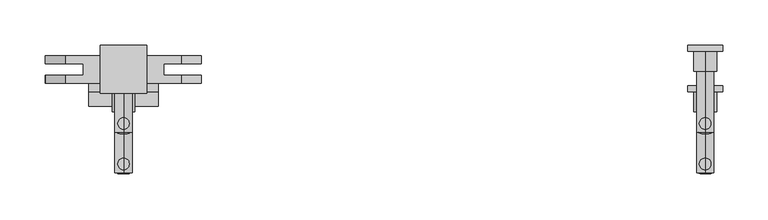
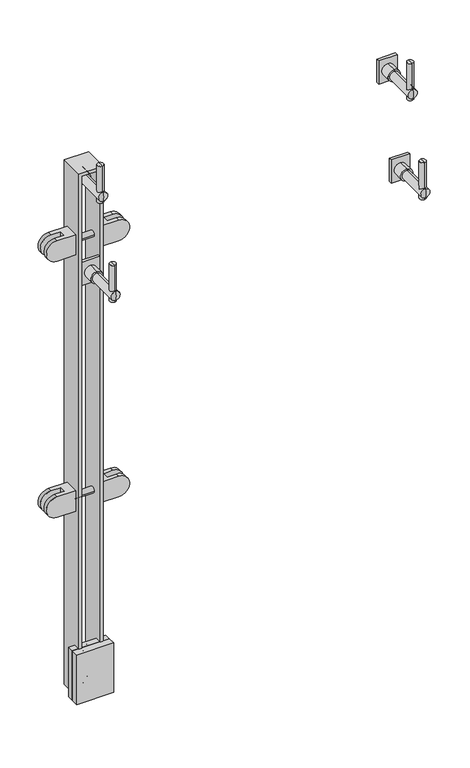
"""IFC4 building model written with IfcOpenShell, lengths in millimetres: proxy geometry, LIVERS_ICN - Glass Panel : LIVERS_ICN - Glass Panel."""

from ifc_helpers import new_model, si_unit, point, frame, origin, place, context, project, spatial, polyline, circle_curve, ellipse_curve, trimmed, outline, extrude, faceted_brep, source, transform, mapped, element, save
from ifc_brep_helpers import plane_surface, cylinder_surface, revolved_surface, advanced_brep


def building_element_proxy_eeb6ef50(model_context):
    return source(origin(), model_context, "Body", "SolidModel", [
        advanced_brep(
        [(147.2020677, 60.3249609, 991.2180522), (147.2020677, 60.3249609, 978.5180522), (147.2020677, 60.3249609, 965.8180522), (147.2020677, 38.0999609, 991.2180522), (147.2020677, 38.0999609, 965.8180522), (147.2020677, 38.0999609, 978.5180522)],
        [
            (0, 1),
            (1, 2),
            (2, 0, circle_curve(frame((147.2020677, 60.3249609, 978.5180522), z_axis=(0.0, 1.0, 0.0), x_axis=(0.0, 0.0, -1.0)), 12.7)),
            (0, 2, circle_curve(frame((147.2020677, 60.3249609, 978.5180522), z_axis=(0.0, 1.0, 0.0), x_axis=(0.0, 0.0, -1.0)), 12.7)),
            (3, 0),
            (2, 4),
            (4, 3, circle_curve(frame((147.2020677, 38.0999609, 978.5180522), z_axis=(0.0, 1.0, 0.0), x_axis=(0.0, 0.0, -1.0)), 12.7)),
            (3, 4, circle_curve(frame((147.2020677, 38.0999609, 978.5180522), z_axis=(0.0, 1.0, 0.0), x_axis=(0.0, 0.0, -1.0)), 12.7)),
            (5, 3),
            (4, 5),
        ],
        [
            plane_surface(frame((147.2020677, 60.3249609, 978.5180522), z_axis=(0.0, 1.0, 0.0), x_axis=(0.0, 0.0, -1.0))),
            cylinder_surface(frame((147.2020677, 69.3828283, 978.5180522), z_axis=(0.0, -1.0, 0.0), x_axis=(0.0, 0.0, -1.0)), 12.7),
            plane_surface(frame((147.2020677, 38.0999609, 978.5180522), z_axis=(0.0, -1.0, 0.0), x_axis=(0.0, 0.0, -1.0))),
        ],
        [
            (0, [[1, 2, 3]]),
            (0, [[-2, -1, 4]]),
            (1, [[5, -3, 6, 7]]),
            (1, [[-6, -4, -5, 8]]),
            (2, [[9, -7, 10]]),
            (2, [[-10, -8, -9]]),
        ],
    ),
        advanced_brep(
        [(147.2020677, -25.4004131, 1043.1838845), (147.2020677, -19.0504161, 1043.1838845), (147.2020677, -12.7004191, 1043.1838845), (147.2020677, -25.4004131, 962.7878163), (147.2020677, -12.7004191, 962.7878163), (147.2020677, -19.0504161, 962.7878163)],
        [
            (0, 1),
            (1, 2),
            (2, 0, circle_curve(frame((147.2020677, -19.0504161, 1043.1838845), z_axis=(0.0, 0.0, 1.0), x_axis=(0.0, 1.0, 0.0)), 6.349997)),
            (0, 2, circle_curve(frame((147.2020677, -19.0504161, 1043.1838845), z_axis=(0.0, 0.0, 1.0), x_axis=(0.0, 1.0, 0.0)), 6.349997)),
            (3, 0),
            (2, 4),
            (4, 3, circle_curve(frame((147.2020677, -19.0504161, 962.7878163), z_axis=(0.0, 0.0, 1.0), x_axis=(0.0, 1.0, 0.0)), 6.349997)),
            (3, 4, circle_curve(frame((147.2020677, -19.0504161, 962.7878163), z_axis=(0.0, 0.0, 1.0), x_axis=(0.0, 1.0, 0.0)), 6.349997)),
            (5, 3),
            (4, 5),
        ],
        [
            plane_surface(frame((147.2020677, -19.0504161, 1043.1838845), z_axis=(0.0, 0.0, 1.0), x_axis=(0.0, 1.0, 0.0))),
            cylinder_surface(frame((147.2020677, -19.0504161, 1057.0348914), z_axis=(0.0, 0.0, -1.0), x_axis=(0.0, 1.0, 0.0)), 6.349997),
            plane_surface(frame((147.2020677, -19.0504161, 962.7878163), z_axis=(0.0, 0.0, -1.0), x_axis=(0.0, 1.0, 0.0))),
        ],
        [
            (0, [[1, 2, 3]]),
            (0, [[-2, -1, 4]]),
            (1, [[5, -3, 6, 7]]),
            (1, [[-6, -4, -5, 8]]),
            (2, [[9, -7, 10]]),
            (2, [[-10, -8, -9]]),
        ],
    ),
        advanced_brep(
        [(147.2020677, -30.1375464, 978.5180522), (147.2020677, -28.5500464, 988.0430522), (147.2020677, -28.5500464, 968.9930522), (147.2020677, 38.0999609, 988.0430522), (147.2020677, 38.0999609, 978.5180522), (147.2020677, 38.0999609, 968.9930522)],
        [
            (0, 1, circle_curve(frame((147.2020677, -0.7687964, 978.5180522), z_axis=(-1.0, 0.0, 0.0), x_axis=(0.0, 1.0, 0.0)), 29.36875)),
            (1, 2, circle_curve(frame((147.2020677, -28.5500464, 978.5180522), z_axis=(0.0, -1.0, 0.0), x_axis=(0.0, 0.0, -1.0)), 9.525)),
            (2, 0, circle_curve(frame((147.2020677, -0.7687964, 978.5180522), z_axis=(-1.0, 0.0, 0.0), x_axis=(0.0, 1.0, 0.0)), 29.36875)),
            (2, 1, circle_curve(frame((147.2020677, -28.5500464, 978.5180522), z_axis=(0.0, -1.0, 0.0), x_axis=(0.0, 0.0, -1.0)), 9.525)),
            (3, 4),
            (4, 5),
            (5, 3, circle_curve(frame((147.2020677, 38.0999609, 978.5180522), z_axis=(0.0, 1.0, 0.0), x_axis=(0.0, 0.0, -1.0)), 9.525)),
            (3, 5, circle_curve(frame((147.2020677, 38.0999609, 978.5180522), z_axis=(0.0, 1.0, 0.0), x_axis=(0.0, 0.0, -1.0)), 9.525)),
            (1, 3),
            (5, 2),
        ],
        [
            revolved_surface(trimmed(ellipse_curve(frame((147.2020677, -0.7687964, 978.5180522), z_axis=(-1.0, 0.0, 0.0), x_axis=(0.0, 1.0, 0.0)), 29.36875, 29.36875), [point((147.2020677, -28.5500464, 968.9930522))], [point((147.2020677, -30.1375464, 978.5180522))], True, "CARTESIAN"), (147.2020677, 30.3031204, 978.5180522), (0.0, -1.0, 0.0)),
            plane_surface(frame((147.2020677, 38.0999609, 978.5180522), z_axis=(0.0, 1.0, 0.0), x_axis=(0.0, 0.0, -1.0))),
            cylinder_surface(frame((147.2020677, 30.3031204, 978.5180522), z_axis=(0.0, -1.0, 0.0), x_axis=(0.0, 0.0, -1.0)), 9.525),
        ],
        [
            (0, [[1, 2, 3]]),
            (0, [[-3, 4, -1]]),
            (1, [[5, 6, 7]]),
            (1, [[-6, -5, 8]]),
            (2, [[9, -7, 10, -2]]),
            (2, [[-10, -8, -9, -4]]),
        ],
    ),
        extrude(outline(polyline([(166.2520677, 66.6749609), (166.2520677, 60.3249609), (128.1520677, 60.3249609), (128.1520677, 66.6749609), (166.2520677, 66.6749609)])), frame((0.0, 0.0, 953.1180522), z_axis=(0.0, 0.0, 1.0), x_axis=(1.0, 0.0, 0.0)), (0.0, 0.0, 1.0), 50.8),
        advanced_brep(
        [(786.9360146, 60.3249609, 991.2180522), (786.9360146, 60.3249609, 978.5180522), (786.9360146, 60.3249609, 965.8180522), (786.9360146, 38.0999609, 991.2180522), (786.9360146, 38.0999609, 965.8180522), (786.9360146, 38.0999609, 978.5180522)],
        [
            (0, 1),
            (1, 2),
            (2, 0, circle_curve(frame((786.9360146, 60.3249609, 978.5180522), z_axis=(0.0, 1.0, 0.0), x_axis=(0.0, 0.0, -1.0)), 12.7)),
            (0, 2, circle_curve(frame((786.9360146, 60.3249609, 978.5180522), z_axis=(0.0, 1.0, 0.0), x_axis=(0.0, 0.0, -1.0)), 12.7)),
            (3, 0),
            (2, 4),
            (4, 3, circle_curve(frame((786.9360146, 38.0999609, 978.5180522), z_axis=(0.0, 1.0, 0.0), x_axis=(0.0, 0.0, -1.0)), 12.7)),
            (3, 4, circle_curve(frame((786.9360146, 38.0999609, 978.5180522), z_axis=(0.0, 1.0, 0.0), x_axis=(0.0, 0.0, -1.0)), 12.7)),
            (5, 3),
            (4, 5),
        ],
        [
            plane_surface(frame((786.9360146, 60.3249609, 978.5180522), z_axis=(0.0, 1.0, 0.0), x_axis=(0.0, 0.0, -1.0))),
            cylinder_surface(frame((786.9360146, 69.3828283, 978.5180522), z_axis=(0.0, -1.0, 0.0), x_axis=(0.0, 0.0, -1.0)), 12.7),
            plane_surface(frame((786.9360146, 38.0999609, 978.5180522), z_axis=(0.0, -1.0, 0.0), x_axis=(0.0, 0.0, -1.0))),
        ],
        [
            (0, [[1, 2, 3]]),
            (0, [[-2, -1, 4]]),
            (1, [[5, -3, 6, 7]]),
            (1, [[-6, -4, -5, 8]]),
            (2, [[9, -7, 10]]),
            (2, [[-10, -8, -9]]),
        ],
    ),
        advanced_brep(
        [(786.9360146, -25.4004131, 1043.1838845), (786.9360146, -19.0504161, 1043.1838845), (786.9360146, -12.7004191, 1043.1838845), (786.9360146, -25.4004131, 962.7878163), (786.9360146, -12.7004191, 962.7878163), (786.9360146, -19.0504161, 962.7878163)],
        [
            (0, 1),
            (1, 2),
            (2, 0, circle_curve(frame((786.9360146, -19.0504161, 1043.1838845), z_axis=(0.0, 0.0, 1.0), x_axis=(0.0, 1.0, 0.0)), 6.349997)),
            (0, 2, circle_curve(frame((786.9360146, -19.0504161, 1043.1838845), z_axis=(0.0, 0.0, 1.0), x_axis=(0.0, 1.0, 0.0)), 6.349997)),
            (3, 0),
            (2, 4),
            (4, 3, circle_curve(frame((786.9360146, -19.0504161, 962.7878163), z_axis=(0.0, 0.0, 1.0), x_axis=(0.0, 1.0, 0.0)), 6.349997)),
            (3, 4, circle_curve(frame((786.9360146, -19.0504161, 962.7878163), z_axis=(0.0, 0.0, 1.0), x_axis=(0.0, 1.0, 0.0)), 6.349997)),
            (5, 3),
            (4, 5),
        ],
        [
            plane_surface(frame((786.9360146, -19.0504161, 1043.1838845), z_axis=(0.0, 0.0, 1.0), x_axis=(0.0, 1.0, 0.0))),
            cylinder_surface(frame((786.9360146, -19.0504161, 1057.0348914), z_axis=(0.0, 0.0, -1.0), x_axis=(0.0, 1.0, 0.0)), 6.349997),
            plane_surface(frame((786.9360146, -19.0504161, 962.7878163), z_axis=(0.0, 0.0, -1.0), x_axis=(0.0, 1.0, 0.0))),
        ],
        [
            (0, [[1, 2, 3]]),
            (0, [[-2, -1, 4]]),
            (1, [[5, -3, 6, 7]]),
            (1, [[-6, -4, -5, 8]]),
            (2, [[9, -7, 10]]),
            (2, [[-10, -8, -9]]),
        ],
    ),
        advanced_brep(
        [(786.9360146, -30.1375464, 978.5180522), (786.9360146, -28.5500464, 988.0430522), (786.9360146, -28.5500464, 968.9930522), (786.9360146, 38.0999609, 988.0430522), (786.9360146, 38.0999609, 978.5180522), (786.9360146, 38.0999609, 968.9930522)],
        [
            (0, 1, circle_curve(frame((786.9360146, -0.7687964, 978.5180522), z_axis=(-1.0, 0.0, 0.0), x_axis=(0.0, 1.0, 0.0)), 29.36875)),
            (1, 2, circle_curve(frame((786.9360146, -28.5500464, 978.5180522), z_axis=(0.0, -1.0, 0.0), x_axis=(0.0, 0.0, -1.0)), 9.525)),
            (2, 0, circle_curve(frame((786.9360146, -0.7687964, 978.5180522), z_axis=(-1.0, 0.0, 0.0), x_axis=(0.0, 1.0, 0.0)), 29.36875)),
            (2, 1, circle_curve(frame((786.9360146, -28.5500464, 978.5180522), z_axis=(0.0, -1.0, 0.0), x_axis=(0.0, 0.0, -1.0)), 9.525)),
            (3, 4),
            (4, 5),
            (5, 3, circle_curve(frame((786.9360146, 38.0999609, 978.5180522), z_axis=(0.0, 1.0, 0.0), x_axis=(0.0, 0.0, -1.0)), 9.525)),
            (3, 5, circle_curve(frame((786.9360146, 38.0999609, 978.5180522), z_axis=(0.0, 1.0, 0.0), x_axis=(0.0, 0.0, -1.0)), 9.525)),
            (1, 3),
            (5, 2),
        ],
        [
            revolved_surface(trimmed(ellipse_curve(frame((786.9360146, -0.7687964, 978.5180522), z_axis=(-1.0, 0.0, 0.0), x_axis=(0.0, 1.0, 0.0)), 29.36875, 29.36875), [point((786.9360146, -28.5500464, 968.9930522))], [point((786.9360146, -30.1375464, 978.5180522))], True, "CARTESIAN"), (786.9360146, 30.3031204, 978.5180522), (0.0, -1.0, 0.0)),
            plane_surface(frame((786.9360146, 38.0999609, 978.5180522), z_axis=(0.0, 1.0, 0.0), x_axis=(0.0, 0.0, -1.0))),
            cylinder_surface(frame((786.9360146, 30.3031204, 978.5180522), z_axis=(0.0, -1.0, 0.0), x_axis=(0.0, 0.0, -1.0)), 9.525),
        ],
        [
            (0, [[1, 2, 3]]),
            (0, [[-3, 4, -1]]),
            (1, [[5, 6, 7]]),
            (1, [[-6, -5, 8]]),
            (2, [[9, -7, 10, -2]]),
            (2, [[-10, -8, -9, -4]]),
        ],
    ),
        extrude(outline(polyline([(805.9860146, 66.6749609), (805.9860146, 60.3249609), (767.8860146, 60.3249609), (767.8860146, 66.6749609), (805.9860146, 66.6749609)])), frame((0.0, 0.0, 953.1180522), z_axis=(0.0, 0.0, 1.0), x_axis=(1.0, 0.0, 0.0)), (0.0, 0.0, 1.0), 50.8),
        advanced_brep(
        [(147.2020677, 15.875, 802.0090959), (147.2020677, 15.875, 789.3090959), (147.2020677, 15.875, 776.6090959), (147.2020677, -6.35, 802.0090959), (147.2020677, -6.35, 776.6090959), (147.2020677, -6.35, 789.3090959)],
        [
            (0, 1),
            (1, 2),
            (2, 0, circle_curve(frame((147.2020677, 15.875, 789.3090959), z_axis=(0.0, 1.0, 0.0), x_axis=(0.0, 0.0, -1.0)), 12.7)),
            (0, 2, circle_curve(frame((147.2020677, 15.875, 789.3090959), z_axis=(0.0, 1.0, 0.0), x_axis=(0.0, 0.0, -1.0)), 12.7)),
            (3, 0),
            (2, 4),
            (4, 3, circle_curve(frame((147.2020677, -6.35, 789.3090959), z_axis=(0.0, 1.0, 0.0), x_axis=(0.0, 0.0, -1.0)), 12.7)),
            (3, 4, circle_curve(frame((147.2020677, -6.35, 789.3090959), z_axis=(0.0, 1.0, 0.0), x_axis=(0.0, 0.0, -1.0)), 12.7)),
            (5, 3),
            (4, 5),
        ],
        [
            plane_surface(frame((147.2020677, 15.875, 789.3090959), z_axis=(0.0, 1.0, 0.0), x_axis=(0.0, 0.0, -1.0))),
            cylinder_surface(frame((147.2020677, 24.9328674, 789.3090959), z_axis=(0.0, -1.0, 0.0), x_axis=(0.0, 0.0, -1.0)), 12.7),
            plane_surface(frame((147.2020677, -6.35, 789.3090959), z_axis=(0.0, -1.0, 0.0), x_axis=(0.0, 0.0, -1.0))),
        ],
        [
            (0, [[1, 2, 3]]),
            (0, [[-2, -1, 4]]),
            (1, [[5, -3, 6, 7]]),
            (1, [[-6, -4, -5, 8]]),
            (2, [[9, -7, 10]]),
            (2, [[-10, -8, -9]]),
        ],
    ),
        advanced_brep(
        [(147.2020677, -69.850374, 853.9749282), (147.2020677, -63.500377, 853.9749282), (147.2020677, -57.15038, 853.9749282), (147.2020677, -69.850374, 773.57886), (147.2020677, -57.15038, 773.57886), (147.2020677, -63.500377, 773.57886)],
        [
            (0, 1),
            (1, 2),
            (2, 0, circle_curve(frame((147.2020677, -63.500377, 853.9749282), z_axis=(0.0, 0.0, 1.0), x_axis=(0.0, 1.0, 0.0)), 6.349997)),
            (0, 2, circle_curve(frame((147.2020677, -63.500377, 853.9749282), z_axis=(0.0, 0.0, 1.0), x_axis=(0.0, 1.0, 0.0)), 6.349997)),
            (3, 0),
            (2, 4),
            (4, 3, circle_curve(frame((147.2020677, -63.500377, 773.57886), z_axis=(0.0, 0.0, 1.0), x_axis=(0.0, 1.0, 0.0)), 6.349997)),
            (3, 4, circle_curve(frame((147.2020677, -63.500377, 773.57886), z_axis=(0.0, 0.0, 1.0), x_axis=(0.0, 1.0, 0.0)), 6.349997)),
            (5, 3),
            (4, 5),
        ],
        [
            plane_surface(frame((147.2020677, -63.500377, 853.9749282), z_axis=(0.0, 0.0, 1.0), x_axis=(0.0, 1.0, 0.0))),
            cylinder_surface(frame((147.2020677, -63.500377, 867.8259351), z_axis=(0.0, 0.0, -1.0), x_axis=(0.0, 1.0, 0.0)), 6.349997),
            plane_surface(frame((147.2020677, -63.500377, 773.57886), z_axis=(0.0, 0.0, -1.0), x_axis=(0.0, 1.0, 0.0))),
        ],
        [
            (0, [[1, 2, 3]]),
            (0, [[-2, -1, 4]]),
            (1, [[5, -3, 6, 7]]),
            (1, [[-6, -4, -5, 8]]),
            (2, [[9, -7, 10]]),
            (2, [[-10, -8, -9]]),
        ],
    ),
        advanced_brep(
        [(147.2020677, -74.5875073, 789.3090959), (147.2020677, -73.0000073, 798.8340959), (147.2020677, -73.0000073, 779.7840959), (147.2020677, -6.35, 798.8340959), (147.2020677, -6.35, 789.3090959), (147.2020677, -6.35, 779.7840959)],
        [
            (0, 1, circle_curve(frame((147.2020677, -45.2187573, 789.3090959), z_axis=(-1.0, 0.0, 0.0), x_axis=(0.0, 1.0, 0.0)), 29.36875)),
            (1, 2, circle_curve(frame((147.2020677, -73.0000073, 789.3090959), z_axis=(0.0, -1.0, 0.0), x_axis=(0.0, 0.0, -1.0)), 9.525)),
            (2, 0, circle_curve(frame((147.2020677, -45.2187573, 789.3090959), z_axis=(-1.0, 0.0, 0.0), x_axis=(0.0, 1.0, 0.0)), 29.36875)),
            (2, 1, circle_curve(frame((147.2020677, -73.0000073, 789.3090959), z_axis=(0.0, -1.0, 0.0), x_axis=(0.0, 0.0, -1.0)), 9.525)),
            (3, 4),
            (4, 5),
            (5, 3, circle_curve(frame((147.2020677, -6.35, 789.3090959), z_axis=(0.0, 1.0, 0.0), x_axis=(0.0, 0.0, -1.0)), 9.525)),
            (3, 5, circle_curve(frame((147.2020677, -6.35, 789.3090959), z_axis=(0.0, 1.0, 0.0), x_axis=(0.0, 0.0, -1.0)), 9.525)),
            (1, 3),
            (5, 2),
        ],
        [
            revolved_surface(trimmed(ellipse_curve(frame((147.2020677, -45.2187573, 789.3090959), z_axis=(-1.0, 0.0, 0.0), x_axis=(0.0, 1.0, 0.0)), 29.36875, 29.36875), [point((147.2020677, -73.0000073, 779.7840959))], [point((147.2020677, -74.5875073, 789.3090959))], True, "CARTESIAN"), (147.2020677, -14.1468405, 789.3090959), (0.0, -1.0, 0.0)),
            plane_surface(frame((147.2020677, -6.35, 789.3090959), z_axis=(0.0, 1.0, 0.0), x_axis=(0.0, 0.0, -1.0))),
            cylinder_surface(frame((147.2020677, -14.1468405, 789.3090959), z_axis=(0.0, -1.0, 0.0), x_axis=(0.0, 0.0, -1.0)), 9.525),
        ],
        [
            (0, [[1, 2, 3]]),
            (0, [[-3, 4, -1]]),
            (1, [[5, 6, 7]]),
            (1, [[-6, -5, 8]]),
            (2, [[9, -7, 10, -2]]),
            (2, [[-10, -8, -9, -4]]),
        ],
    ),
        extrude(outline(polyline([(166.2520677, 22.225), (166.2520677, 15.875), (128.1520677, 15.875), (128.1520677, 22.225), (166.2520677, 22.225)])), frame((0.0, 0.0, 763.9090959), z_axis=(0.0, 0.0, 1.0), x_axis=(1.0, 0.0, 0.0)), (0.0, 0.0, 1.0), 50.8),
        advanced_brep(
        [(786.9360146, 15.875, 802.0090959), (786.9360146, 15.875, 789.3090959), (786.9360146, 15.875, 776.6090959), (786.9360146, -6.35, 802.0090959), (786.9360146, -6.35, 776.6090959), (786.9360146, -6.35, 789.3090959)],
        [
            (0, 1),
            (1, 2),
            (2, 0, circle_curve(frame((786.9360146, 15.875, 789.3090959), z_axis=(0.0, 1.0, 0.0), x_axis=(0.0, 0.0, -1.0)), 12.7)),
            (0, 2, circle_curve(frame((786.9360146, 15.875, 789.3090959), z_axis=(0.0, 1.0, 0.0), x_axis=(0.0, 0.0, -1.0)), 12.7)),
            (3, 0),
            (2, 4),
            (4, 3, circle_curve(frame((786.9360146, -6.35, 789.3090959), z_axis=(0.0, 1.0, 0.0), x_axis=(0.0, 0.0, -1.0)), 12.7)),
            (3, 4, circle_curve(frame((786.9360146, -6.35, 789.3090959), z_axis=(0.0, 1.0, 0.0), x_axis=(0.0, 0.0, -1.0)), 12.7)),
            (5, 3),
            (4, 5),
        ],
        [
            plane_surface(frame((786.9360146, 15.875, 789.3090959), z_axis=(0.0, 1.0, 0.0), x_axis=(0.0, 0.0, -1.0))),
            cylinder_surface(frame((786.9360146, 24.9328674, 789.3090959), z_axis=(0.0, -1.0, 0.0), x_axis=(0.0, 0.0, -1.0)), 12.7),
            plane_surface(frame((786.9360146, -6.35, 789.3090959), z_axis=(0.0, -1.0, 0.0), x_axis=(0.0, 0.0, -1.0))),
        ],
        [
            (0, [[1, 2, 3]]),
            (0, [[-2, -1, 4]]),
            (1, [[5, -3, 6, 7]]),
            (1, [[-6, -4, -5, 8]]),
            (2, [[9, -7, 10]]),
            (2, [[-10, -8, -9]]),
        ],
    ),
        advanced_brep(
        [(786.9360146, -69.850374, 853.9749282), (786.9360146, -63.500377, 853.9749282), (786.9360146, -57.15038, 853.9749282), (786.9360146, -69.850374, 773.57886), (786.9360146, -57.15038, 773.57886), (786.9360146, -63.500377, 773.57886)],
        [
            (0, 1),
            (1, 2),
            (2, 0, circle_curve(frame((786.9360146, -63.500377, 853.9749282), z_axis=(0.0, 0.0, 1.0), x_axis=(0.0, 1.0, 0.0)), 6.349997)),
            (0, 2, circle_curve(frame((786.9360146, -63.500377, 853.9749282), z_axis=(0.0, 0.0, 1.0), x_axis=(0.0, 1.0, 0.0)), 6.349997)),
            (3, 0),
            (2, 4),
            (4, 3, circle_curve(frame((786.9360146, -63.500377, 773.57886), z_axis=(0.0, 0.0, 1.0), x_axis=(0.0, 1.0, 0.0)), 6.349997)),
            (3, 4, circle_curve(frame((786.9360146, -63.500377, 773.57886), z_axis=(0.0, 0.0, 1.0), x_axis=(0.0, 1.0, 0.0)), 6.349997)),
            (5, 3),
            (4, 5),
        ],
        [
            plane_surface(frame((786.9360146, -63.500377, 853.9749282), z_axis=(0.0, 0.0, 1.0), x_axis=(0.0, 1.0, 0.0))),
            cylinder_surface(frame((786.9360146, -63.500377, 867.8259351), z_axis=(0.0, 0.0, -1.0), x_axis=(0.0, 1.0, 0.0)), 6.349997),
            plane_surface(frame((786.9360146, -63.500377, 773.57886), z_axis=(0.0, 0.0, -1.0), x_axis=(0.0, 1.0, 0.0))),
        ],
        [
            (0, [[1, 2, 3]]),
            (0, [[-2, -1, 4]]),
            (1, [[5, -3, 6, 7]]),
            (1, [[-6, -4, -5, 8]]),
            (2, [[9, -7, 10]]),
            (2, [[-10, -8, -9]]),
        ],
    ),
        advanced_brep(
        [(786.9360146, -74.5875073, 789.3090959), (786.9360146, -73.0000073, 798.8340959), (786.9360146, -73.0000073, 779.7840959), (786.9360146, -6.35, 798.8340959), (786.9360146, -6.35, 789.3090959), (786.9360146, -6.35, 779.7840959)],
        [
            (0, 1, circle_curve(frame((786.9360146, -45.2187573, 789.3090959), z_axis=(-1.0, 0.0, 0.0), x_axis=(0.0, 1.0, 0.0)), 29.36875)),
            (1, 2, circle_curve(frame((786.9360146, -73.0000073, 789.3090959), z_axis=(0.0, -1.0, 0.0), x_axis=(0.0, 0.0, -1.0)), 9.525)),
            (2, 0, circle_curve(frame((786.9360146, -45.2187573, 789.3090959), z_axis=(-1.0, 0.0, 0.0), x_axis=(0.0, 1.0, 0.0)), 29.36875)),
            (2, 1, circle_curve(frame((786.9360146, -73.0000073, 789.3090959), z_axis=(0.0, -1.0, 0.0), x_axis=(0.0, 0.0, -1.0)), 9.525)),
            (3, 4),
            (4, 5),
            (5, 3, circle_curve(frame((786.9360146, -6.35, 789.3090959), z_axis=(0.0, 1.0, 0.0), x_axis=(0.0, 0.0, -1.0)), 9.525)),
            (3, 5, circle_curve(frame((786.9360146, -6.35, 789.3090959), z_axis=(0.0, 1.0, 0.0), x_axis=(0.0, 0.0, -1.0)), 9.525)),
            (1, 3),
            (5, 2),
        ],
        [
            revolved_surface(trimmed(ellipse_curve(frame((786.9360146, -45.2187573, 789.3090959), z_axis=(-1.0, 0.0, 0.0), x_axis=(0.0, 1.0, 0.0)), 29.36875, 29.36875), [point((786.9360146, -73.0000073, 779.7840959))], [point((786.9360146, -74.5875073, 789.3090959))], True, "CARTESIAN"), (786.9360146, -14.1468405, 789.3090959), (0.0, -1.0, 0.0)),
            plane_surface(frame((786.9360146, -6.35, 789.3090959), z_axis=(0.0, 1.0, 0.0), x_axis=(0.0, 0.0, -1.0))),
            cylinder_surface(frame((786.9360146, -14.1468405, 789.3090959), z_axis=(0.0, -1.0, 0.0), x_axis=(0.0, 0.0, -1.0)), 9.525),
        ],
        [
            (0, [[1, 2, 3]]),
            (0, [[-3, 4, -1]]),
            (1, [[5, 6, 7]]),
            (1, [[-6, -5, 8]]),
            (2, [[9, -7, 10, -2]]),
            (2, [[-10, -8, -9, -4]]),
        ],
    ),
        extrude(outline(polyline([(805.9860146, 22.225), (805.9860146, 15.875), (767.8860146, 15.875), (767.8860146, 22.225), (805.9860146, 22.225)])), frame((0.0, 0.0, 763.9090959), z_axis=(0.0, 0.0, 1.0), x_axis=(1.0, 0.0, 0.0)), (0.0, 0.0, 1.0), 50.8),
        advanced_brep(
        [(121.8020677, 55.5624457, 313.5369168), (121.8020677, 25.3999457, 313.5369168), (121.8020677, 25.3999457, 269.0869168), (121.8020677, 55.5624457, 269.0869168), (83.6009737, 55.5624457, 269.0869168), (83.6009737, 55.5624457, 313.5369168), (83.6009737, 25.3999457, 269.0869168), (83.6009737, 34.1311957, 269.0869168), (102.9301485, 34.1311957, 269.0869168), (102.9301485, 46.8311957, 269.0869168), (83.6009737, 46.8311957, 269.0869168), (83.6009737, 25.3999457, 313.5369168), (83.6009737, 46.8311957, 313.5369168), (102.9301485, 46.8311957, 313.5369168), (102.9301485, 34.1311957, 313.5369168), (83.6009737, 34.1311957, 313.5369168)],
        [
            (0, 1),
            (1, 2),
            (2, 3),
            (3, 0),
            (3, 4),
            (4, 5, circle_curve(frame((83.6009737, 55.5624457, 291.3119168), z_axis=(0.0, 1.0, 0.0), x_axis=(0.0, 0.0, -1.0)), 22.225)),
            (5, 0),
            (2, 6),
            (6, 7),
            (7, 8),
            (8, 9),
            (9, 10),
            (10, 4),
            (1, 11),
            (11, 6, circle_curve(frame((83.6009737, 25.3999457, 291.3119168), z_axis=(0.0, -1.0, 0.0), x_axis=(0.0, 0.0, -1.0)), 22.225)),
            (5, 12),
            (12, 13),
            (13, 14),
            (14, 15),
            (15, 11),
            (13, 9),
            (8, 14),
            (12, 10, circle_curve(frame((83.6009737, 46.8311957, 291.3119168), z_axis=(0.0, -1.0, 0.0), x_axis=(0.0, 0.0, -1.0)), 22.225)),
            (7, 15, circle_curve(frame((83.6009737, 34.1311957, 291.3119168), z_axis=(0.0, 1.0, 0.0), x_axis=(0.0, 0.0, -1.0)), 22.225)),
        ],
        [
            plane_surface(frame((121.8020677, 55.5624457, 269.0869168), z_axis=(1.0, 0.0, 0.0), x_axis=(0.0, 0.0, 1.0))),
            plane_surface(frame((61.2989869, 55.5624457, 313.5369168), z_axis=(0.0, 1.0, 0.0), x_axis=(1.0, 0.0, 0.0))),
            plane_surface(frame((61.2989869, 55.5624457, 269.0869168), z_axis=(0.0, 0.0, -1.0), x_axis=(1.0, 0.0, 0.0))),
            plane_surface(frame((61.2989869, 25.3999457, 269.0869168), z_axis=(0.0, -1.0, 0.0), x_axis=(1.0, 0.0, 0.0))),
            plane_surface(frame((61.2989869, 25.3999457, 313.5369168), z_axis=(0.0, 0.0, 1.0), x_axis=(1.0, 0.0, 0.0))),
            plane_surface(frame((102.9301485, 46.8311957, 269.0869168), z_axis=(-1.0, 0.0, 0.0), x_axis=(0.0, 0.0, 1.0))),
            plane_surface(frame((61.2989869, 46.8311957, 313.5369168), z_axis=(0.0, -1.0, 0.0), x_axis=(1.0, 0.0, 0.0))),
            plane_surface(frame((61.2989869, 34.1311957, 269.0869168), z_axis=(0.0, 1.0, 0.0), x_axis=(1.0, 0.0, 0.0))),
            cylinder_surface(frame((83.6009737, 55.5624457, 291.3119168), z_axis=(0.0, 1.0, 0.0), x_axis=(0.0, 0.0, -1.0)), 22.225),
        ],
        [
            (0, [[1, 2, 3, 4]]),
            (1, [[-4, 5, 6, 7]]),
            (2, [[-3, 8, 9, 10, 11, 12, 13, -5]]),
            (3, [[-2, 14, 15, -8]]),
            (4, [[-1, -7, 16, 17, 18, 19, 20, -14]]),
            (5, [[21, -11, 22, -18]]),
            (6, [[-21, -17, 23, -12]]),
            (7, [[-22, -10, 24, -19]]),
            (8, [[-6, -13, -23, -16]]),
            (8, [[-9, -15, -20, -24]]),
        ],
    ),
        advanced_brep(
        [(172.6020677, 55.5624457, 313.5369168), (172.6020677, 55.5624457, 269.0869168), (172.6020677, 25.3999457, 269.0869168), (172.6020677, 25.3999457, 313.5369168), (210.8031617, 55.5624457, 313.5369168), (210.8031617, 55.5624457, 269.0869168), (210.8031617, 46.8311957, 269.0869168), (191.4739869, 46.8311957, 269.0869168), (191.4739869, 34.1311957, 269.0869168), (210.8031617, 34.1311957, 269.0869168), (210.8031617, 25.3999457, 269.0869168), (210.8031617, 25.3999457, 313.5369168), (210.8031617, 34.1311957, 313.5369168), (191.4739869, 34.1311957, 313.5369168), (191.4739869, 46.8311957, 313.5369168), (210.8031617, 46.8311957, 313.5369168)],
        [
            (0, 1),
            (1, 2),
            (2, 3),
            (3, 0),
            (0, 4),
            (4, 5, circle_curve(frame((210.8031617, 55.5624457, 291.3119168), z_axis=(0.0, 1.0, 0.0), x_axis=(0.0, 0.0, -1.0)), 22.225)),
            (5, 1),
            (5, 6),
            (6, 7),
            (7, 8),
            (8, 9),
            (9, 10),
            (10, 2),
            (10, 11, circle_curve(frame((210.8031617, 25.3999457, 291.3119168), z_axis=(0.0, -1.0, 0.0), x_axis=(0.0, 0.0, -1.0)), 22.225)),
            (11, 3),
            (11, 12),
            (12, 13),
            (13, 14),
            (14, 15),
            (15, 4),
            (13, 8),
            (7, 14),
            (6, 15, circle_curve(frame((210.8031617, 46.8311957, 291.3119168), z_axis=(0.0, -1.0, 0.0), x_axis=(0.0, 0.0, -1.0)), 22.225)),
            (12, 9, circle_curve(frame((210.8031617, 34.1311957, 291.3119168), z_axis=(0.0, 1.0, 0.0), x_axis=(0.0, 0.0, -1.0)), 22.225)),
        ],
        [
            plane_surface(frame((172.6020677, 55.5624457, 269.0869168), z_axis=(-1.0, 0.0, 0.0), x_axis=(0.0, 0.0, 1.0))),
            plane_surface(frame((233.1051485, 55.5624457, 313.5369168), z_axis=(0.0, 1.0, 0.0), x_axis=(-1.0, 0.0, 0.0))),
            plane_surface(frame((233.1051485, 55.5624457, 269.0869168), z_axis=(0.0, 0.0, -1.0), x_axis=(-1.0, 0.0, 0.0))),
            plane_surface(frame((233.1051485, 25.3999457, 269.0869168), z_axis=(0.0, -1.0, 0.0), x_axis=(-1.0, 0.0, 0.0))),
            plane_surface(frame((233.1051485, 25.3999457, 313.5369168), z_axis=(0.0, 0.0, 1.0), x_axis=(-1.0, 0.0, 0.0))),
            plane_surface(frame((191.4739869, 46.8311957, 269.0869168), z_axis=(1.0, 0.0, 0.0), x_axis=(0.0, 0.0, 1.0))),
            plane_surface(frame((233.1051485, 46.8311957, 313.5369168), z_axis=(0.0, -1.0, 0.0), x_axis=(-1.0, 0.0, 0.0))),
            plane_surface(frame((233.1051485, 34.1311957, 269.0869168), z_axis=(0.0, 1.0, 0.0), x_axis=(-1.0, 0.0, 0.0))),
            cylinder_surface(frame((210.8031617, 55.5624457, 291.3119168), z_axis=(0.0, 1.0, 0.0), x_axis=(0.0, 0.0, -1.0)), 22.225),
        ],
        [
            (0, [[1, 2, 3, 4]]),
            (1, [[5, 6, 7, -1]]),
            (2, [[-7, 8, 9, 10, 11, 12, 13, -2]]),
            (3, [[-13, 14, 15, -3]]),
            (4, [[-15, 16, 17, 18, 19, 20, -5, -4]]),
            (5, [[-18, 21, -10, 22]]),
            (6, [[-9, 23, -19, -22]]),
            (7, [[-17, 24, -11, -21]]),
            (8, [[-20, -23, -8, -6]]),
            (8, [[-24, -16, -14, -12]]),
        ],
    ),
        advanced_brep(
        [(121.8020677, 55.5624457, 872.3369168), (121.8020677, 25.3999457, 872.3369168), (121.8020677, 25.3999457, 827.8869168), (121.8020677, 55.5624457, 827.8869168), (83.6009737, 55.5624457, 827.8869168), (83.6009737, 55.5624457, 872.3369168), (83.6009737, 25.3999457, 827.8869168), (83.6009737, 34.1311957, 827.8869168), (102.9301485, 34.1311957, 827.8869168), (102.9301485, 46.8311957, 827.8869168), (83.6009737, 46.8311957, 827.8869168), (83.6009737, 25.3999457, 872.3369168), (83.6009737, 46.8311957, 872.3369168), (102.9301485, 46.8311957, 872.3369168), (102.9301485, 34.1311957, 872.3369168), (83.6009737, 34.1311957, 872.3369168)],
        [
            (0, 1),
            (1, 2),
            (2, 3),
            (3, 0),
            (3, 4),
            (4, 5, circle_curve(frame((83.6009737, 55.5624457, 850.1119168), z_axis=(0.0, 1.0, 0.0), x_axis=(0.0, 0.0, -1.0)), 22.225)),
            (5, 0),
            (2, 6),
            (6, 7),
            (7, 8),
            (8, 9),
            (9, 10),
            (10, 4),
            (1, 11),
            (11, 6, circle_curve(frame((83.6009737, 25.3999457, 850.1119168), z_axis=(0.0, -1.0, 0.0), x_axis=(0.0, 0.0, -1.0)), 22.225)),
            (5, 12),
            (12, 13),
            (13, 14),
            (14, 15),
            (15, 11),
            (13, 9),
            (8, 14),
            (12, 10, circle_curve(frame((83.6009737, 46.8311957, 850.1119168), z_axis=(0.0, -1.0, 0.0), x_axis=(0.0, 0.0, -1.0)), 22.225)),
            (7, 15, circle_curve(frame((83.6009737, 34.1311957, 850.1119168), z_axis=(0.0, 1.0, 0.0), x_axis=(0.0, 0.0, -1.0)), 22.225)),
        ],
        [
            plane_surface(frame((121.8020677, 55.5624457, 827.8869168), z_axis=(1.0, 0.0, 0.0), x_axis=(0.0, 0.0, 1.0))),
            plane_surface(frame((61.2989869, 55.5624457, 872.3369168), z_axis=(0.0, 1.0, 0.0), x_axis=(1.0, 0.0, 0.0))),
            plane_surface(frame((61.2989869, 55.5624457, 827.8869168), z_axis=(0.0, 0.0, -1.0), x_axis=(1.0, 0.0, 0.0))),
            plane_surface(frame((61.2989869, 25.3999457, 827.8869168), z_axis=(0.0, -1.0, 0.0), x_axis=(1.0, 0.0, 0.0))),
            plane_surface(frame((61.2989869, 25.3999457, 872.3369168), z_axis=(0.0, 0.0, 1.0), x_axis=(1.0, 0.0, 0.0))),
            plane_surface(frame((102.9301485, 46.8311957, 827.8869168), z_axis=(-1.0, 0.0, 0.0), x_axis=(0.0, 0.0, 1.0))),
            plane_surface(frame((61.2989869, 46.8311957, 872.3369168), z_axis=(0.0, -1.0, 0.0), x_axis=(1.0, 0.0, 0.0))),
            plane_surface(frame((61.2989869, 34.1311957, 827.8869168), z_axis=(0.0, 1.0, 0.0), x_axis=(1.0, 0.0, 0.0))),
            cylinder_surface(frame((83.6009737, 55.5624457, 850.1119168), z_axis=(0.0, 1.0, 0.0), x_axis=(0.0, 0.0, -1.0)), 22.225),
        ],
        [
            (0, [[1, 2, 3, 4]]),
            (1, [[-4, 5, 6, 7]]),
            (2, [[-3, 8, 9, 10, 11, 12, 13, -5]]),
            (3, [[-2, 14, 15, -8]]),
            (4, [[-1, -7, 16, 17, 18, 19, 20, -14]]),
            (5, [[21, -11, 22, -18]]),
            (6, [[-21, -17, 23, -12]]),
            (7, [[-22, -10, 24, -19]]),
            (8, [[-6, -13, -23, -16]]),
            (8, [[-9, -15, -20, -24]]),
        ],
    ),
        advanced_brep(
        [(172.6020677, 55.5624457, 872.3369168), (172.6020677, 55.5624457, 827.8869168), (172.6020677, 25.3999457, 827.8869168), (172.6020677, 25.3999457, 872.3369168), (210.8031617, 55.5624457, 872.3369168), (210.8031617, 55.5624457, 827.8869168), (210.8031617, 46.8311957, 827.8869168), (191.4739869, 46.8311957, 827.8869168), (191.4739869, 34.1311957, 827.8869168), (210.8031617, 34.1311957, 827.8869168), (210.8031617, 25.3999457, 827.8869168), (210.8031617, 25.3999457, 872.3369168), (210.8031617, 34.1311957, 872.3369168), (191.4739869, 34.1311957, 872.3369168), (191.4739869, 46.8311957, 872.3369168), (210.8031617, 46.8311957, 872.3369168)],
        [
            (0, 1),
            (1, 2),
            (2, 3),
            (3, 0),
            (0, 4),
            (4, 5, circle_curve(frame((210.8031617, 55.5624457, 850.1119168), z_axis=(0.0, 1.0, 0.0), x_axis=(0.0, 0.0, -1.0)), 22.225)),
            (5, 1),
            (5, 6),
            (6, 7),
            (7, 8),
            (8, 9),
            (9, 10),
            (10, 2),
            (10, 11, circle_curve(frame((210.8031617, 25.3999457, 850.1119168), z_axis=(0.0, -1.0, 0.0), x_axis=(0.0, 0.0, -1.0)), 22.225)),
            (11, 3),
            (11, 12),
            (12, 13),
            (13, 14),
            (14, 15),
            (15, 4),
            (13, 8),
            (7, 14),
            (6, 15, circle_curve(frame((210.8031617, 46.8311957, 850.1119168), z_axis=(0.0, -1.0, 0.0), x_axis=(0.0, 0.0, -1.0)), 22.225)),
            (12, 9, circle_curve(frame((210.8031617, 34.1311957, 850.1119168), z_axis=(0.0, 1.0, 0.0), x_axis=(0.0, 0.0, -1.0)), 22.225)),
        ],
        [
            plane_surface(frame((172.6020677, 55.5624457, 827.8869168), z_axis=(-1.0, 0.0, 0.0), x_axis=(0.0, 0.0, 1.0))),
            plane_surface(frame((233.1051485, 55.5624457, 872.3369168), z_axis=(0.0, 1.0, 0.0), x_axis=(-1.0, 0.0, 0.0))),
            plane_surface(frame((233.1051485, 55.5624457, 827.8869168), z_axis=(0.0, 0.0, -1.0), x_axis=(-1.0, 0.0, 0.0))),
            plane_surface(frame((233.1051485, 25.3999457, 827.8869168), z_axis=(0.0, -1.0, 0.0), x_axis=(-1.0, 0.0, 0.0))),
            plane_surface(frame((233.1051485, 25.3999457, 872.3369168), z_axis=(0.0, 0.0, 1.0), x_axis=(-1.0, 0.0, 0.0))),
            plane_surface(frame((191.4739869, 46.8311957, 827.8869168), z_axis=(1.0, 0.0, 0.0), x_axis=(0.0, 0.0, 1.0))),
            plane_surface(frame((233.1051485, 46.8311957, 872.3369168), z_axis=(0.0, -1.0, 0.0), x_axis=(-1.0, 0.0, 0.0))),
            plane_surface(frame((233.1051485, 34.1311957, 827.8869168), z_axis=(0.0, 1.0, 0.0), x_axis=(-1.0, 0.0, 0.0))),
            cylinder_surface(frame((210.8031617, 55.5624457, 850.1119168), z_axis=(0.0, 1.0, 0.0), x_axis=(0.0, 0.0, -1.0)), 22.225),
        ],
        [
            (0, [[1, 2, 3, 4]]),
            (1, [[5, 6, 7, -1]]),
            (2, [[-7, 8, 9, 10, 11, 12, 13, -2]]),
            (3, [[-13, 14, 15, -3]]),
            (4, [[-15, 16, 17, 18, 19, 20, -5, -4]]),
            (5, [[-18, 21, -10, 22]]),
            (6, [[-9, 23, -19, -22]]),
            (7, [[-17, 24, -11, -21]]),
            (8, [[-20, -23, -8, -6]]),
            (8, [[-24, -16, -14, -12]]),
        ],
    ),
        advanced_brep(
        [(147.2020677, 28.575, -125.3541166), (147.2020677, 29.7562407, -125.3541166), (147.2020677, 29.7562407, -103.1291055), (147.2020677, 28.575, -103.1291055), (147.2020677, 28.575, -114.2416111), (147.2020677, 32.325, -119.8541166), (147.2020677, 30.8816229, -114.2416111), (147.2020677, 32.325, -108.6291055), (147.2020677, 34.8740117, -119.8541166), (147.2020677, 34.8740117, -108.6291055), (147.2020677, 33.8500285, -122.802123), (147.2020677, 33.8500285, -105.6810991), (147.2020677, 31.8562692, -124.5603989), (147.2020677, 31.8562692, -103.9228232)],
        [
            (0, 1),
            (1, 2, circle_curve(frame((147.2020677, 29.7562407, -114.2416111), z_axis=(0.0, -1.0, 0.0), x_axis=(0.0, 0.0, 1.0)), 11.1125056)),
            (2, 3),
            (3, 0, circle_curve(frame((147.2020677, 28.575, -114.2416111), z_axis=(0.0, 1.0, 0.0), x_axis=(0.0, 0.0, 1.0)), 11.1125056)),
            (2, 1, circle_curve(frame((147.2020677, 29.7562407, -114.2416111), z_axis=(0.0, -1.0, 0.0), x_axis=(0.0, 0.0, 1.0)), 11.1125056)),
            (0, 3, circle_curve(frame((147.2020677, 28.575, -114.2416111), z_axis=(0.0, 1.0, 0.0), x_axis=(0.0, 0.0, 1.0)), 11.1125056)),
            (4, 0),
            (3, 4),
            (5, 6),
            (6, 7),
            (7, 5, circle_curve(frame((147.2020677, 32.325, -114.2416111), z_axis=(0.0, 1.0, 0.0), x_axis=(0.0, 0.0, 1.0)), 5.6125056)),
            (5, 7, circle_curve(frame((147.2020677, 32.325, -114.2416111), z_axis=(0.0, 1.0, 0.0), x_axis=(0.0, 0.0, 1.0)), 5.6125056)),
            (8, 5),
            (7, 9),
            (9, 8, circle_curve(frame((147.2020677, 34.8740117, -114.2416111), z_axis=(0.0, 1.0, 0.0), x_axis=(0.0, 0.0, 1.0)), 5.6125056)),
            (8, 9, circle_curve(frame((147.2020677, 34.8740117, -114.2416111), z_axis=(0.0, 1.0, 0.0), x_axis=(0.0, 0.0, 1.0)), 5.6125056)),
            (10, 8, circle_curve(frame((147.2020677, 31.75, -120.4208407), z_axis=(1.0, 0.0, 0.0), x_axis=(0.0, -1.0, 0.0)), 3.175)),
            (9, 11, circle_curve(frame((147.2020677, 31.75, -108.0623814), z_axis=(1.0, 0.0, 0.0), x_axis=(0.0, -1.0, 0.0)), 3.175)),
            (11, 10, circle_curve(frame((147.2020677, 33.8500285, -114.2416111), z_axis=(0.0, 1.0, 0.0), x_axis=(0.0, 0.0, 1.0)), 8.560512)),
            (10, 11, circle_curve(frame((147.2020677, 33.8500285, -114.2416111), z_axis=(0.0, 1.0, 0.0), x_axis=(0.0, 0.0, 1.0)), 8.560512)),
            (12, 10),
            (11, 13),
            (13, 12, circle_curve(frame((147.2020677, 31.8562692, -114.2416111), z_axis=(0.0, 1.0, 0.0), x_axis=(0.0, 0.0, 1.0)), 10.3187879)),
            (12, 13, circle_curve(frame((147.2020677, 31.8562692, -114.2416111), z_axis=(0.0, 1.0, 0.0), x_axis=(0.0, 0.0, 1.0)), 10.3187879)),
            (1, 12, circle_curve(frame((147.2020677, 29.7562407, -122.1791166), z_axis=(1.0, 0.0, 0.0), x_axis=(0.0, -1.0, 0.0)), 3.175)),
            (13, 2, circle_curve(frame((147.2020677, 29.7562407, -106.3041055), z_axis=(1.0, 0.0, 0.0), x_axis=(0.0, -1.0, 0.0)), 3.175)),
        ],
        [
            cylinder_surface(frame((147.2020677, 28.575, -114.2416111), z_axis=(0.0, -1.0, 0.0), x_axis=(0.0, 0.0, 1.0)), 11.1125056),
            plane_surface(frame((147.2020677, 28.575, -114.2416111), z_axis=(0.0, -1.0, 0.0), x_axis=(0.0, 0.0, 1.0))),
            revolved_surface(polyline([(147.2020677, 30.8816229, -114.2416111), (147.2020677, 32.325, -108.6291055)]), (147.2020677, 28.575, -114.2416111), (0.0, -1.0, 0.0)),
            revolved_surface(polyline([(147.2020677, 32.325, -108.6291055), (147.2020677, 34.8740117, -108.6291055)]), (147.2020677, 28.575, -114.2416111), (0.0, -1.0, 0.0)),
            revolved_surface(trimmed(ellipse_curve(frame((147.2020677, 31.75, -108.0623814), z_axis=(1.0, 0.0, 0.0), x_axis=(0.0, -1.0, 0.0)), 3.175, 3.175), [point((147.2020677, 34.8740117, -108.6291055))], [point((147.2020677, 33.8500285, -105.6810991))], True, "CARTESIAN"), (147.2020677, 28.575, -114.2416111), (0.0, -1.0, 0.0)),
            revolved_surface(polyline([(147.2020677, 33.8500285, -105.6810991), (147.2020677, 31.8562692, -103.9228232)]), (147.2020677, 28.575, -114.2416111), (0.0, -1.0, 0.0)),
            revolved_surface(trimmed(ellipse_curve(frame((147.2020677, 29.7562407, -106.3041055), z_axis=(1.0, 0.0, 0.0), x_axis=(0.0, -1.0, 0.0)), 3.175, 3.175), [point((147.2020677, 31.8562692, -103.9228232))], [point((147.2020677, 29.7562407, -103.1291055))], True, "CARTESIAN"), (147.2020677, 28.575, -114.2416111), (0.0, -1.0, 0.0)),
        ],
        [
            (0, [[1, 2, 3, 4]]),
            (0, [[-3, 5, -1, 6]]),
            (1, [[7, -4, 8]]),
            (1, [[-8, -6, -7]]),
            (2, [[9, 10, 11]]),
            (2, [[-10, -9, 12]]),
            (3, [[13, -11, 14, 15]]),
            (3, [[-14, -12, -13, 16]]),
            (4, [[17, -15, 18, 19]]),
            (4, [[-18, -16, -17, 20]]),
            (5, [[21, -19, 22, 23]]),
            (5, [[-22, -20, -21, 24]]),
            (6, [[25, -23, 26, -2]]),
            (6, [[-26, -24, -25, -5]]),
        ],
    ),
        advanced_brep(
        [(147.2020677, 28.575, -55.5041166), (147.2020677, 29.7562407, -55.5041166), (147.2020677, 29.7562407, -33.2791055), (147.2020677, 28.575, -33.2791055), (147.2020677, 28.575, -44.3916111), (147.2020677, 33.8500285, -52.952123), (147.2020677, 34.8740117, -50.0041166), (147.2020677, 34.8740117, -38.7791055), (147.2020677, 33.8500285, -35.8310991), (147.2020677, 31.8562692, -54.7103989), (147.2020677, 31.8562692, -34.0728232), (147.2020677, 32.325, -50.0041166), (147.2020677, 30.8816229, -44.3916111), (147.2020677, 32.325, -38.7791055)],
        [
            (0, 1),
            (1, 2, circle_curve(frame((147.2020677, 29.7562407, -44.3916111), z_axis=(0.0, -1.0, 0.0), x_axis=(0.0, 0.0, 1.0)), 11.1125056)),
            (2, 3),
            (3, 0, circle_curve(frame((147.2020677, 28.575, -44.3916111), z_axis=(0.0, 1.0, 0.0), x_axis=(0.0, 0.0, 1.0)), 11.1125056)),
            (2, 1, circle_curve(frame((147.2020677, 29.7562407, -44.3916111), z_axis=(0.0, -1.0, 0.0), x_axis=(0.0, 0.0, 1.0)), 11.1125056)),
            (0, 3, circle_curve(frame((147.2020677, 28.575, -44.3916111), z_axis=(0.0, 1.0, 0.0), x_axis=(0.0, 0.0, 1.0)), 11.1125056)),
            (4, 0),
            (3, 4),
            (5, 6, circle_curve(frame((147.2020677, 31.75, -50.5708407), z_axis=(1.0, 0.0, 0.0), x_axis=(0.0, -1.0, 0.0)), 3.175)),
            (6, 7, circle_curve(frame((147.2020677, 34.8740117, -44.3916111), z_axis=(0.0, -1.0, 0.0), x_axis=(0.0, 0.0, 1.0)), 5.6125056)),
            (7, 8, circle_curve(frame((147.2020677, 31.75, -38.2123814), z_axis=(1.0, 0.0, 0.0), x_axis=(0.0, -1.0, 0.0)), 3.175)),
            (8, 5, circle_curve(frame((147.2020677, 33.8500285, -44.3916111), z_axis=(0.0, 1.0, 0.0), x_axis=(0.0, 0.0, 1.0)), 8.560512)),
            (7, 6, circle_curve(frame((147.2020677, 34.8740117, -44.3916111), z_axis=(0.0, -1.0, 0.0), x_axis=(0.0, 0.0, 1.0)), 5.6125056)),
            (5, 8, circle_curve(frame((147.2020677, 33.8500285, -44.3916111), z_axis=(0.0, 1.0, 0.0), x_axis=(0.0, 0.0, 1.0)), 8.560512)),
            (9, 5),
            (8, 10),
            (10, 9, circle_curve(frame((147.2020677, 31.8562692, -44.3916111), z_axis=(0.0, 1.0, 0.0), x_axis=(0.0, 0.0, 1.0)), 10.3187879)),
            (9, 10, circle_curve(frame((147.2020677, 31.8562692, -44.3916111), z_axis=(0.0, 1.0, 0.0), x_axis=(0.0, 0.0, 1.0)), 10.3187879)),
            (1, 9, circle_curve(frame((147.2020677, 29.7562407, -52.3291166), z_axis=(1.0, 0.0, 0.0), x_axis=(0.0, -1.0, 0.0)), 3.175)),
            (10, 2, circle_curve(frame((147.2020677, 29.7562407, -36.4541055), z_axis=(1.0, 0.0, 0.0), x_axis=(0.0, -1.0, 0.0)), 3.175)),
            (11, 12),
            (12, 13),
            (13, 11, circle_curve(frame((147.2020677, 32.325, -44.3916111), z_axis=(0.0, 1.0, 0.0), x_axis=(0.0, 0.0, 1.0)), 5.6125056)),
            (11, 13, circle_curve(frame((147.2020677, 32.325, -44.3916111), z_axis=(0.0, 1.0, 0.0), x_axis=(0.0, 0.0, 1.0)), 5.6125056)),
            (6, 11),
            (13, 7),
        ],
        [
            cylinder_surface(frame((147.2020677, 28.575, -44.3916111), z_axis=(0.0, -1.0, 0.0), x_axis=(0.0, 0.0, 1.0)), 11.1125056),
            plane_surface(frame((147.2020677, 28.575, -44.3916111), z_axis=(0.0, -1.0, 0.0), x_axis=(0.0, 0.0, 1.0))),
            revolved_surface(trimmed(ellipse_curve(frame((147.2020677, 31.75, -38.2123814), z_axis=(1.0, 0.0, 0.0), x_axis=(0.0, -1.0, 0.0)), 3.175, 3.175), [point((147.2020677, 34.8740117, -38.7791055))], [point((147.2020677, 33.8500285, -35.8310991))], True, "CARTESIAN"), (147.2020677, 28.575, -44.3916111), (0.0, -1.0, 0.0)),
            revolved_surface(polyline([(147.2020677, 33.8500285, -35.8310991), (147.2020677, 31.8562692, -34.0728232)]), (147.2020677, 28.575, -44.3916111), (0.0, -1.0, 0.0)),
            revolved_surface(trimmed(ellipse_curve(frame((147.2020677, 29.7562407, -36.4541055), z_axis=(1.0, 0.0, 0.0), x_axis=(0.0, -1.0, 0.0)), 3.175, 3.175), [point((147.2020677, 31.8562692, -34.0728232))], [point((147.2020677, 29.7562407, -33.2791055))], True, "CARTESIAN"), (147.2020677, 28.575, -44.3916111), (0.0, -1.0, 0.0)),
            revolved_surface(polyline([(147.2020677, 30.8816229, -44.3916111), (147.2020677, 32.325, -38.7791055)]), (147.2020677, 28.575, -44.3916111), (0.0, -1.0, 0.0)),
            revolved_surface(polyline([(147.2020677, 32.325, -38.7791055), (147.2020677, 34.8740117, -38.7791055)]), (147.2020677, 28.575, -44.3916111), (0.0, -1.0, 0.0)),
        ],
        [
            (0, [[1, 2, 3, 4]]),
            (0, [[-3, 5, -1, 6]]),
            (1, [[7, -4, 8]]),
            (1, [[-8, -6, -7]]),
            (2, [[9, 10, 11, 12]]),
            (2, [[-11, 13, -9, 14]]),
            (3, [[15, -12, 16, 17]]),
            (3, [[-16, -14, -15, 18]]),
            (4, [[19, -17, 20, -2]]),
            (4, [[-20, -18, -19, -5]]),
            (5, [[21, 22, 23]]),
            (5, [[-22, -21, 24]]),
            (6, [[25, -23, 26, -10]]),
            (6, [[-26, -24, -25, -13]]),
        ],
    ),
        faceted_brep([(172.6020677, 14.2874305, 1010.2680522), (172.6020677, 14.2874305, -133.2916111), (172.6020677, 15.875, -133.2916111), (172.6020677, 15.875, -25.3416111), (172.6020677, 28.575, -25.3416111), (172.6020677, 28.575, -133.2916111), (172.6020677, 66.6749609, -133.2916111), (172.6020677, 66.6749609, 1010.2680522), (166.2520677, 66.6749609, -133.2916111), (166.2520677, 28.575, -133.2916111), (166.2520677, 28.575, -25.3416111), (166.2520677, 15.875, -25.3416111), (166.2520677, 15.875, -133.2916111), (166.2520677, 14.2874305, -133.2916111), (166.2520677, 14.2874305, 1003.9180522), (166.2520677, 66.6749609, 1003.9180522), (109.1020677, 28.575, -133.2916111), (121.8020677, 28.575, -133.2916111), (121.8020677, 66.6749609, -133.2916111), (128.1520677, 66.6749609, -133.2916111), (128.1520677, 28.575, -133.2916111), (185.3020677, 28.575, -133.2916111), (185.3020677, 15.875, -133.2916111), (128.1520677, 15.875, -133.2916111), (128.1520677, 14.2874305, -133.2916111), (121.8020677, 14.2874305, -133.2916111), (121.8020677, 15.875, -133.2916111), (109.1020677, 15.875, -133.2916111), (121.8020677, 14.2874305, 1010.2680522), (128.1520677, 14.2874305, 1003.9180522), (121.8020677, 66.6749609, 1010.2680522), (128.1520677, 66.6749609, 1003.9180522), (128.1520677, 15.875, -25.3416111), (128.1520677, 28.575, -25.3416111), (121.8020677, 28.575, -25.3416111), (121.8020677, 15.875, -25.3416111), (185.3020677, 28.575, -25.3416111), (109.1020677, 28.575, -25.3416111), (109.1020677, 15.875, -25.3416111), (185.3020677, 15.875, -25.3416111)], [[[0, 1, 2, 3, 4, 5, 6, 7]], [[8, 9, 10, 11, 12, 13, 14, 15]], [[16, 17, 18, 19, 20, 9, 8, 6, 5, 21, 22, 2, 1, 13, 12, 23, 24, 25, 26, 27]], [[1, 0, 28, 25, 24, 29, 14, 13]], [[7, 30, 28, 0]], [[8, 15, 31, 19, 18, 30, 7, 6]], [[24, 23, 32, 33, 20, 19, 31, 29]], [[14, 29, 31, 15]], [[30, 18, 17, 34, 35, 26, 25, 28]], [[20, 33, 10, 9]], [[21, 5, 4, 36]], [[37, 34, 17, 16]], [[12, 11, 32, 23]], [[27, 26, 35, 38]], [[39, 3, 2, 22]], [[36, 39, 22, 21]], [[33, 32, 11, 10]], [[36, 4, 3, 39]], [[38, 35, 34, 37]], [[16, 27, 38, 37]]]),
        extrude(outline(polyline([(185.3020677, 15.875), (185.3020677, 0.0), (109.1020677, 0.0), (109.1020677, 15.875), (185.3020677, 15.875)])), frame((0.0, 0.0, -133.2916111), z_axis=(0.0, 0.0, 1.0), x_axis=(1.0, 0.0, 0.0)), (0.0, 0.0, 1.0), 107.95),
        advanced_brep(
        [(128.1520677, 41.2749421, 291.3119224), (128.1520677, 47.5989918, 291.3119224), (128.1520677, 34.9508924, 291.3119224), (166.2660539, 47.5989918, 291.3119224), (166.2660539, 41.2749421, 291.3119224), (166.2660539, 34.9508924, 291.3119224)],
        [
            (0, 1),
            (1, 2, circle_curve(frame((128.1520677, 41.2749421, 291.3119224), z_axis=(-1.0, 0.0, 0.0), x_axis=(0.0, -1.0, 0.0)), 6.3240497)),
            (2, 0),
            (2, 1, circle_curve(frame((128.1520677, 41.2749421, 291.3119224), z_axis=(-1.0, 0.0, 0.0), x_axis=(0.0, -1.0, 0.0)), 6.3240497)),
            (3, 4),
            (4, 5),
            (5, 3, circle_curve(frame((166.2660539, 41.2749421, 291.3119224), z_axis=(1.0, 0.0, 0.0), x_axis=(0.0, -1.0, 0.0)), 6.3240497)),
            (3, 5, circle_curve(frame((166.2660539, 41.2749421, 291.3119224), z_axis=(1.0, 0.0, 0.0), x_axis=(0.0, -1.0, 0.0)), 6.3240497)),
            (1, 3),
            (5, 2),
        ],
        [
            plane_surface(frame((128.1520677, 41.2749421, 291.3119224), z_axis=(-1.0, 0.0, 0.0), x_axis=(0.0, -1.0, 0.0))),
            plane_surface(frame((166.2660539, 41.2749421, 291.3119224), z_axis=(1.0, 0.0, 0.0), x_axis=(0.0, -1.0, 0.0))),
            cylinder_surface(frame((128.1520677, 41.2749421, 291.3119224), z_axis=(-1.0, 0.0, 0.0), x_axis=(0.0, -1.0, 0.0)), 6.3240497),
        ],
        [
            (0, [[1, 2, 3]]),
            (0, [[-3, 4, -1]]),
            (1, [[5, 6, 7]]),
            (1, [[-6, -5, 8]]),
            (2, [[9, -7, 10, -2]]),
            (2, [[-10, -8, -9, -4]]),
        ],
    ),
        advanced_brep(
        [(128.1520677, 41.2749421, 850.1119224), (128.1520677, 47.5989918, 850.1119224), (128.1520677, 34.9508924, 850.1119224), (166.2660539, 47.5989918, 850.1119224), (166.2660539, 41.2749421, 850.1119224), (166.2660539, 34.9508924, 850.1119224)],
        [
            (0, 1),
            (1, 2, circle_curve(frame((128.1520677, 41.2749421, 850.1119224), z_axis=(-1.0, 0.0, 0.0), x_axis=(0.0, -1.0, 0.0)), 6.3240497)),
            (2, 0),
            (2, 1, circle_curve(frame((128.1520677, 41.2749421, 850.1119224), z_axis=(-1.0, 0.0, 0.0), x_axis=(0.0, -1.0, 0.0)), 6.3240497)),
            (3, 4),
            (4, 5),
            (5, 3, circle_curve(frame((166.2660539, 41.2749421, 850.1119224), z_axis=(1.0, 0.0, 0.0), x_axis=(0.0, -1.0, 0.0)), 6.3240497)),
            (3, 5, circle_curve(frame((166.2660539, 41.2749421, 850.1119224), z_axis=(1.0, 0.0, 0.0), x_axis=(0.0, -1.0, 0.0)), 6.3240497)),
            (1, 3),
            (5, 2),
        ],
        [
            plane_surface(frame((128.1520677, 41.2749421, 850.1119224), z_axis=(-1.0, 0.0, 0.0), x_axis=(0.0, -1.0, 0.0))),
            plane_surface(frame((166.2660539, 41.2749421, 850.1119224), z_axis=(1.0, 0.0, 0.0), x_axis=(0.0, -1.0, 0.0))),
            cylinder_surface(frame((128.1520677, 41.2749421, 850.1119224), z_axis=(-1.0, 0.0, 0.0), x_axis=(0.0, -1.0, 0.0)), 6.3240497),
        ],
        [
            (0, [[1, 2, 3]]),
            (0, [[-3, 4, -1]]),
            (1, [[5, 6, 7]]),
            (1, [[-6, -5, 8]]),
            (2, [[9, -7, 10, -2]]),
            (2, [[-10, -8, -9, -4]]),
        ],
    ),
    ])


if __name__ == "__main__":
    model = new_model("IFC4")
    model_context = context("Model", 3, world=origin())
    ifc_project = project(units=[si_unit("LENGTHUNIT", "METRE", prefix="MILLI")], contexts=[model_context])
    site = spatial("IfcSite", under=ifc_project)
    building = spatial("IfcBuilding", under=site)
    placement = place(None, origin())
    building_element_proxy_shape = building_element_proxy_eeb6ef50(model_context)
    element("IfcBuildingElementProxy", 1, Name="LIVERS_ICN - Glass Panel : LIVERS_ICN - Glass Panel", ObjectType="LIVERS_ICN - Glass Panel : LIVERS_ICN - Glass Panel", at=placement, inside=building, context=model_context, shape_type="MappedRepresentation", body=[
        mapped(building_element_proxy_shape, transform((0.0, 0.0, 0.0), x_axis=(1.0, 0.0, 0.0), y_axis=(0.0, 1.0, 0.0), z_axis=(0.0, 0.0, 1.0))),
    ])
    save(model, "model.ifc")
